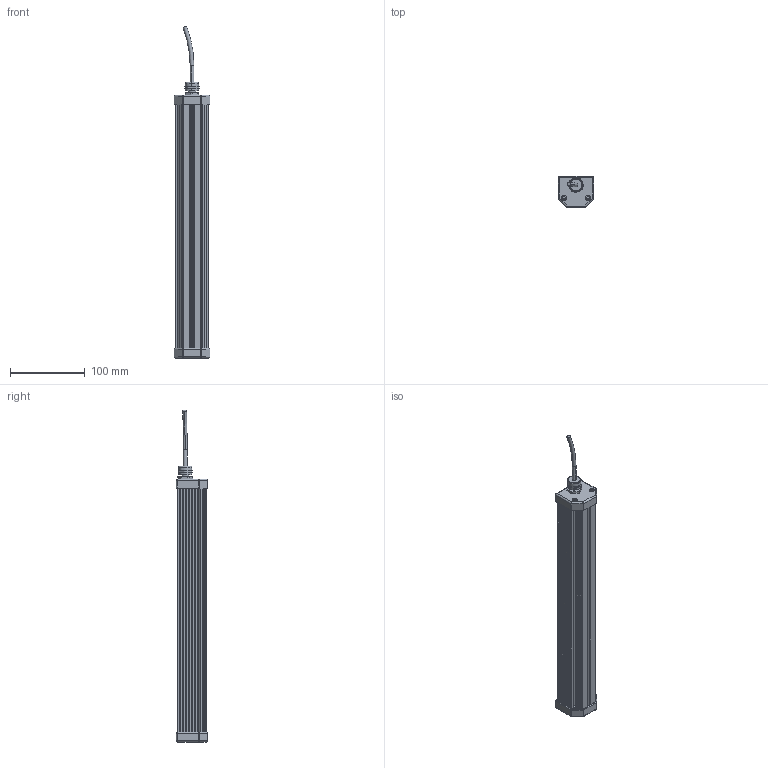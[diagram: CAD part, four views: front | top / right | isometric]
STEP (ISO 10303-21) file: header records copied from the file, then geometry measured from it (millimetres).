
FILE_DESCRIPTION (( 'STEP AP214' ), '1' );
FILE_NAME ('Stableuchte_340mm.STEP', '2021-09-08T08:39:25', ( '' ), ( '' ), 'SwSTEP 2.0', 'SolidWorks 2021', '' );
FILE_SCHEMA (( 'AUTOMOTIVE_DESIGN' ));
Length unit declared in the file: millimetre
Products named in the file (7): Stableuchte_340mm; Scheibe3; Stableuchte_340r; Schraube_Lampe; Stableuchte_Endkappe_anderes_Ende; Stableuchte_Endkappe_mit_Gewinde; Kabelanbindung
Assembly tree (9 placements, depth 2):
  Stableuchte_340mm
    Stableuchte_340r
    Scheibe3
    Stableuchte_Endkappe_anderes_Ende
    Stableuchte_Endkappe_mit_Gewinde
    Kabelanbindung
    Schraube_Lampe  x4
Bounding box: 48 x 42 x 443.24 mm (x, y, z)
Volume: 357796 mm3; surface area: 170607.4 mm2
Topology: 9 solids, 9 shells, 512 faces, 1394 edges, 862 vertices
Faces by surface type: cylinder 227, plane 219, torus 26, cone 16, bspline 16, sphere 8
Entity records: 15893 total; most frequent: CARTESIAN_POINT 3135, DIRECTION 2588, ORIENTED_EDGE 2456, EDGE_CURVE 1228, AXIS2_PLACEMENT_3D 939, VERTEX_POINT 766, VECTOR 710, LINE 710
